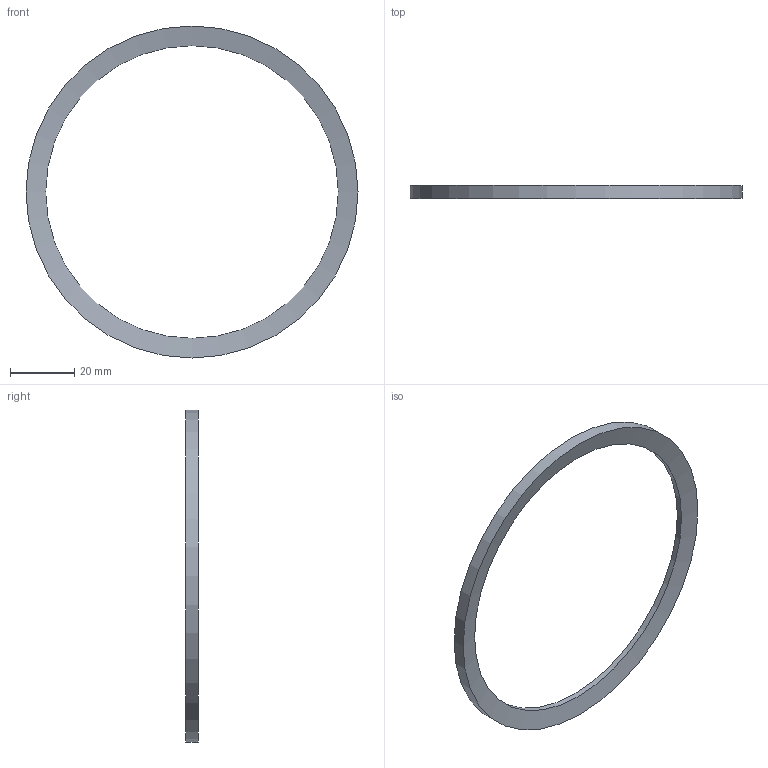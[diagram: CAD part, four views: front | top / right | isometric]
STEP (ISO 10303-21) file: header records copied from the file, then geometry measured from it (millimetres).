
FILE_DESCRIPTION(/* description */ (''),/* implementation_level */ '2;1');
FILE_NAME(/* name */ 'Z:\Geberit\Export\NewStep\366782.stp',/* time_stamp */ '2014-04-02T07:54:53+02:00',/* author */ ('nelson'),/* organization */ (''),/* preprocessor_version */ 'ST-DEVELOPER v15.2',/* originating_system */ 'Autodesk Inventor 2014',/* authorisation */ '');
FILE_SCHEMA (('AUTOMOTIVE_DESIGN { 1 0 10303 214 3 1 1 }'));
Length unit declared in the file: millimetre
Products named in the file (1): 366782
Bounding box: 103.5 x 4 x 103.5 mm (x, y, z)
Volume: 5526.8 mm3; surface area: 5645.1 mm2
Topology: 1 solids, 1 shells, 4 faces, 8 edges, 4 vertices
Faces by surface type: cylinder 2, cone 2
Full cylindrical faces by diameter (mm): 91.2 x1, 103.5 x1
Entity records: 113 total; most frequent: DIRECTION 18, CARTESIAN_POINT 13, AXIS2_PLACEMENT_3D 9, EDGE_LOOP 8, ORIENTED_EDGE 8, STYLED_ITEM 5, FACE_BOUND 4, FACE_OUTER_BOUND 4
